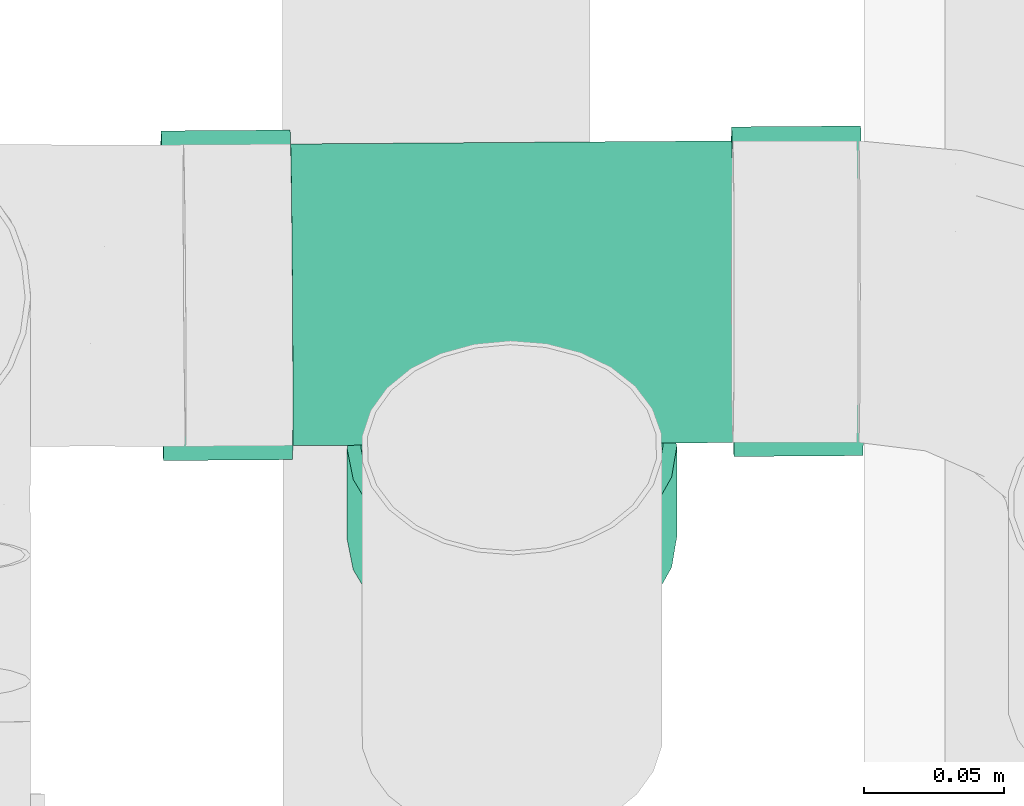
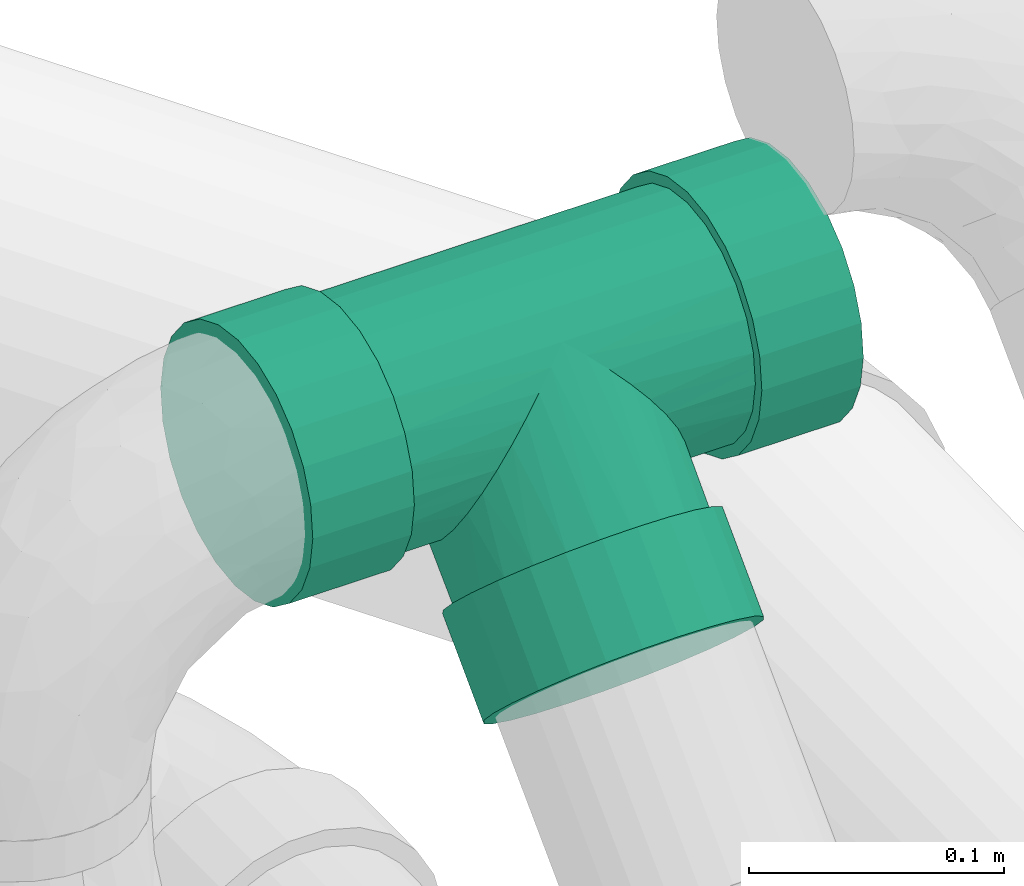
# One storey, part 68 of 78: 1 flow fitting.
"""IFC2X3 building model written with IfcOpenShell, lengths in millimetres."""

import ifcopenshell
import ifcopenshell.guid

model = None  # the IFC model being written
_history = None  # IfcOwnerHistory: only IFC2X3 demands one
_inside = {}  # id of a spatial element -> (the spatial element, [elements in it])
_under = {}  # id of a project, library or spatial element -> (it, [spatial elements below it])
_declared = {}  # id of a project -> (the project, [libraries it declares])
_typed = {}  # id of a type object -> (the type object, [elements of that type])
_made_of = {}  # id of a material, layer set ... -> (it, [elements and type objects made of it])


def new_model(schema):
    """Start an empty IFC model of exactly this schema.

    Asked for "IFC4X3", IfcOpenShell would pick the latest addendum, in which some entities
    have other attributes; the version numbers below select the first issue.
    IFC2X3 requires an IfcOwnerHistory on every rooted entity: one is made here for all.
    """
    global model, _history
    if schema == "IFC4X3":
        model = ifcopenshell.file(schema_version=(4, 3, 0, 0))
    else:
        model = ifcopenshell.file(schema=schema)
    _inside.clear()
    _under.clear()
    _declared.clear()
    _typed.clear()
    _made_of.clear()
    _history = None
    if model.schema == "IFC2X3":
        org = make("IfcOrganization", Name="unknown")
        user = make(
            "IfcPersonAndOrganization",
            ThePerson=make("IfcPerson", FamilyName="unknown"),
            TheOrganization=org,
        )
        app = make(
            "IfcApplication",
            ApplicationDeveloper=org,
            Version="unknown",
            ApplicationFullName="unknown",
            ApplicationIdentifier="unknown",
        )
        _history = make(
            "IfcOwnerHistory",
            OwningUser=user,
            OwningApplication=app,
            ChangeAction="ADDED",
            CreationDate=0,
        )
    return model


def make(cls, **values):
    """One entity of the class cls with the attributes given. An attribute that is None is left unset."""
    return model.create_entity(
        cls, **{name: value for name, value in values.items() if value is not None}
    )


def entity(cls, *values):
    """Any entity or typed value of the class cls, its attributes in the order of the schema. None: left unset."""
    e = model.create_entity(cls)
    for i, value in enumerate(values):
        if value is not None:
            e[i] = value
    return e


def rooted(cls, **values):
    """An entity with a GlobalId (a new one), such as an element, a storey or a relation."""
    return make(cls, GlobalId=ifcopenshell.guid.new(), OwnerHistory=_history, **values)


def si_unit(unit_type, name, prefix=None):
    """IfcSIUnit, for example si_unit("LENGTHUNIT", "METRE", prefix="MILLI")."""
    return make("IfcSIUnit", UnitType=unit_type, Prefix=prefix, Name=name)


def converted_unit(unit_type, name, factor, base, dimensions=None, offset=None):
    """IfcConversionBasedUnit, such as the inch: factor (a typed value) times the base unit."""
    return make(
        "IfcConversionBasedUnit"
        if offset is None
        else "IfcConversionBasedUnitWithOffset",
        ConversionOffset=offset,
        Dimensions=None
        if dimensions is None
        else entity("IfcDimensionalExponents", *dimensions),
        UnitType=unit_type,
        Name=name,
        ConversionFactor=make(
            "IfcMeasureWithUnit", ValueComponent=factor, UnitComponent=base
        ),
    )


def derived_unit(unit_type, elements):
    """IfcDerivedUnit: a product of units, each with its exponent."""
    return make(
        "IfcDerivedUnit",
        Elements=[
            make("IfcDerivedUnitElement", Unit=unit, Exponent=power)
            for unit, power in elements
        ],
        UnitType=unit_type,
    )


def assignment(units):
    """IfcUnitAssignment: the units of a project."""
    return None if units is None else make("IfcUnitAssignment", Units=units)


def point(xyz):
    """IfcCartesianPoint."""
    return None if xyz is None else make("IfcCartesianPoint", Coordinates=xyz)


def direction(xyz):
    """IfcDirection."""
    return None if xyz is None else make("IfcDirection", DirectionRatios=xyz)


def frame(location, z_axis=None, x_axis=None):
    """IfcAxis2Placement3D, a coordinate frame: its origin and axes. An axis left out is left unset."""
    return make(
        "IfcAxis2Placement3D",
        Location=point(location),
        Axis=direction(z_axis),
        RefDirection=direction(x_axis),
    )


def origin_with_axes():
    """The frame at (0, 0, 0) with the z axis (0, 0, 1) and the x axis (1, 0, 0) written out."""
    return frame((0.0, 0.0, 0.0), z_axis=(0.0, 0.0, 1.0), x_axis=(1.0, 0.0, 0.0))


def place(relative_to, where):
    """IfcLocalPlacement: puts the frame where relative to a parent placement (None: the world)."""
    return make(
        "IfcLocalPlacement", PlacementRelTo=relative_to, RelativePlacement=where
    )


def context(
    kind, dimensions, precision=None, world=None, true_north=None, identifier=None
):
    """IfcGeometricRepresentationContext, for example the 3D "Model" context."""
    return make(
        "IfcGeometricRepresentationContext",
        ContextIdentifier=identifier,
        ContextType=kind,
        CoordinateSpaceDimension=dimensions,
        Precision=precision,
        WorldCoordinateSystem=world,
        TrueNorth=true_north,
    )


def subcontext(parent, identifier, kind, view, scale=None):
    """IfcGeometricRepresentationSubContext, for example "Body" below "Model"."""
    return make(
        "IfcGeometricRepresentationSubContext",
        ContextIdentifier=identifier,
        ContextType=kind,
        ParentContext=parent,
        TargetScale=scale,
        TargetView=view,
    )


def project(units=None, contexts=None):
    """IfcProject with its units and contexts."""
    return rooted(
        "IfcProject",
        Name="project",
        RepresentationContexts=contexts,
        UnitsInContext=assignment(units),
    )


def spatial(cls, under=None, at=None, **own):
    """A site, building, storey or space (cls), placed at a placement, below another one or the project."""
    s = rooted(cls, ObjectPlacement=at, **own)
    if under is not None:
        _under.setdefault(under.id(), (under, []))[1].append(s)
    return s


def faces_of(points, faces, orient=None, outer=None):
    """IfcFace entities. A face is a list of loops; a loop is a list of indices into points, from 0.

    orient and outer hold one flag for each loop. By default every Orientation is true, the
    first loop of a face is its IfcFaceOuterBound and the others are IfcFaceBound.
    """
    made = []
    for i, loops in enumerate(faces):
        bounds = []
        for j, loop in enumerate(loops):
            is_outer = j == 0 if outer is None else outer[i][j]
            bounds.append(
                make(
                    "IfcFaceOuterBound" if is_outer else "IfcFaceBound",
                    Bound=make("IfcPolyLoop", Polygon=[points[k] for k in loop]),
                    Orientation=True if orient is None else orient[i][j],
                )
            )
        made.append(make("IfcFace", Bounds=bounds))
    return made


def open_shell(faces, orient=None, outer=None):
    """The faces of one IfcOpenShell. surface_model builds it on its shared points."""
    return ("IfcOpenShell", faces, orient, outer)


def surface_model(cls, points, shells):
    """IfcFaceBasedSurfaceModel or IfcShellBasedSurfaceModel (cls): surfaces that need not close."""
    shared = [point(p) for p in points]
    made = [make(c, CfsFaces=faces_of(shared, fs, o, b)) for c, fs, o, b in shells]
    if cls == "IfcFaceBasedSurfaceModel":
        return make(cls, FbsmFaces=made)
    return make(cls, SbsmBoundary=made)


def shape(context_of_items, identifier, shape_type, items):
    """IfcShapeRepresentation: the items that make up one representation, for example the "Body"."""
    return make(
        "IfcShapeRepresentation",
        ContextOfItems=context_of_items,
        RepresentationIdentifier=identifier,
        RepresentationType=shape_type,
        Items=items,
    )


def source(mapping_origin, context_of_items, identifier, shape_type, items):
    """IfcRepresentationMap: a shape defined once, which mapped items show again and again."""
    return make(
        "IfcRepresentationMap",
        MappingOrigin=mapping_origin,
        MappedRepresentation=shape(context_of_items, identifier, shape_type, items),
    )


def transform(
    local_origin,
    x_axis=None,
    y_axis=None,
    z_axis=None,
    scale=None,
    scale2=None,
    scale3=None,
    uniform=True,
):
    """IfcCartesianTransformationOperator3D, or its non-uniform kind. x_axis, y_axis, z_axis: its Axis1, 2, 3."""
    if uniform:
        return make(
            "IfcCartesianTransformationOperator3D",
            Axis1=direction(x_axis),
            Axis2=direction(y_axis),
            LocalOrigin=point(local_origin),
            Scale=scale,
            Axis3=direction(z_axis),
        )
    return make(
        "IfcCartesianTransformationOperator3DnonUniform",
        Axis1=direction(x_axis),
        Axis2=direction(y_axis),
        LocalOrigin=point(local_origin),
        Scale=scale,
        Axis3=direction(z_axis),
        Scale2=scale2,
        Scale3=scale3,
    )


def mapped(mapping_source, mapping_target):
    """IfcMappedItem: shows the shape of a source again, moved by a transform."""
    return make(
        "IfcMappedItem", MappingSource=mapping_source, MappingTarget=mapping_target
    )


def made_of(thing, what):
    """Note that an element or type object is made of a material, layer set ...; save() writes the relation."""
    if what is not None:
        _made_of.setdefault(what.id(), (what, []))[1].append(thing)
    return thing


def type_object(cls, material=None, **own):
    """A type object (cls), such as IfcWallType, which elements share."""
    return made_of(rooted(cls, **own), material)


def element(
    cls,
    number,
    at=None,
    inside=None,
    cuts=None,
    type_object=None,
    material=None,
    context=None,
    identifier="Body",
    shape_type=None,
    held_by="IfcProductDefinitionShape",
    body=None,
    shapes=None,
    **own,
):
    """One element of the class cls, such as IfcWall. Its Tag is "e" and its number.

    at: its placement. inside: the storey or other place that contains it. cuts: it is an
    opening in that element (IfcRelVoidsElement). A single representation is given by context,
    identifier, shape_type and body (its items); several are given by shapes. held_by: the class
    of the entity that holds the representations. save() writes the other relations.
    """
    e = rooted(cls, Tag="e%d" % number, ObjectPlacement=at, **own)
    if body is not None:
        shapes = [shape(context, identifier, shape_type, body)]
    if shapes is not None:
        e.Representation = make(held_by, Representations=shapes)
    if inside is not None:
        _inside.setdefault(inside.id(), (inside, []))[1].append(e)
    if cuts is not None:
        rooted(
            "IfcRelVoidsElement", RelatingBuildingElement=cuts, RelatedOpeningElement=e
        )
    if type_object is not None:
        _typed.setdefault(type_object.id(), (type_object, []))[1].append(e)
    return made_of(e, material)


def aggregate(whole, parts):
    """IfcRelAggregates: a whole, such as a stair, and the parts it consists of."""
    return rooted("IfcRelAggregates", RelatingObject=whole, RelatedObjects=parts)


def save(model, path):
    """Write the relations noted so far, then the file.

    IfcRelAggregates (storeys below a building ...), IfcRelContainedInSpatialStructure (elements
    in a storey), IfcRelDefinesByType, IfcRelAssociatesMaterial and IfcRelDeclares: one each for
    every whole, place, type object, material and project.
    """
    for whole, parts in _under.values():
        aggregate(whole, parts)
    for where, things in _inside.values():
        rooted(
            "IfcRelContainedInSpatialStructure",
            RelatedElements=things,
            RelatingStructure=where,
        )
    for kind, things in _typed.values():
        rooted("IfcRelDefinesByType", RelatedObjects=things, RelatingType=kind)
    for what, things in _made_of.values():
        rooted("IfcRelAssociatesMaterial", RelatedObjects=things, RelatingMaterial=what)
    for by, libraries in _declared.values():
        rooted("IfcRelDeclares", RelatingContext=by, RelatedDefinitions=libraries)
    model.write(path)


model = new_model("IFC2X3")

# Units and contexts
model_context = context("Model", 3, precision=0.01, world=frame((0.0, 4.29681676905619e-09, 0.0)), true_north=direction((4.01073788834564e-13, 1.0)))
plan_context = context("Plan", 3, precision=0.01, world=frame((0.0, 4.29681676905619e-09, 0.0)), true_north=direction((4.01073788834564e-13, 1.0)))
body_context = subcontext(model_context, "Body", "Model", "MODEL_VIEW")
ifc_project = project(units=[converted_unit("PLANEANGLEUNIT", "DEGREE", entity("IfcPositiveLengthMeasure", 0.0174532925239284), si_unit("PLANEANGLEUNIT", "RADIAN"), dimensions=[0, 0, 0, 0, 0, 0, 0]), si_unit("AREAUNIT", "SQUARE_METRE"), si_unit("LENGTHUNIT", "METRE", prefix="MILLI"), si_unit("MASSUNIT", "GRAM", prefix="KILO"), si_unit("POWERUNIT", "WATT"), si_unit("PRESSUREUNIT", "PASCAL"), si_unit("FORCEUNIT", "NEWTON", prefix="KILO"), si_unit("ELECTRICVOLTAGEUNIT", "VOLT"), si_unit("ELECTRICCURRENTUNIT", "AMPERE"), si_unit("THERMODYNAMICTEMPERATUREUNIT", "DEGREE_CELSIUS"), si_unit("TIMEUNIT", "SECOND"), si_unit("VOLUMEUNIT", "CUBIC_METRE"), derived_unit("LINEARVELOCITYUNIT", [(si_unit("LENGTHUNIT", "METRE"), 1), (si_unit("TIMEUNIT", "SECOND"), -1)]), derived_unit("VOLUMETRICFLOWRATEUNIT", [(si_unit("VOLUMEUNIT", "CUBIC_METRE"), 1), (si_unit("TIMEUNIT", "SECOND"), -1)]), derived_unit("THERMALTRANSMITTANCEUNIT", [(si_unit("POWERUNIT", "WATT"), 1), (si_unit("THERMODYNAMICTEMPERATUREUNIT", "KELVIN"), -1), (si_unit("AREAUNIT", "SQUARE_METRE"), -1)]), derived_unit("SOUNDPRESSUREUNIT", [(si_unit("PRESSUREUNIT", "PASCAL"), 1)])], contexts=[model_context, plan_context])

# Site, building, storey
site_placement = place(None, frame((0.0, -4.29681676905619e-09, 0.0), z_axis=(0.0, 0.0, 1.0), x_axis=(1.0, 0.0, 0.0)))
site = spatial("IfcSite", under=ifc_project, at=site_placement, Name="ENGM", CompositionType="ELEMENT")
building_placement = place(site_placement, frame((0.0, 4.29681676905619e-09, 0.0), z_axis=(0.0, 0.0, 1.0), x_axis=(1.0, 0.0, 0.0)))
building = spatial("IfcBuilding", under=site, at=building_placement, Name="TH", CompositionType="ELEMENT")
storey_placement = place(building_placement, frame((0.0, 0.0, 205200.0), z_axis=(0.0, 0.0, 1.0), x_axis=(1.0, 0.0, 0.0)))
storey = spatial("IfcBuildingStorey", under=building, at=storey_placement, Name="Nivå D + 1,2 m", CompositionType="ELEMENT", Elevation=205200.0)

# Flow fitting
pipe_fitting_type = type_object("IfcPipeFittingType", Name="magi_sewer_tee_wye_NOR", PredefinedType="JUNCTION")
shared_shape = source(origin_with_axes(), body_context, "Body", "SurfaceModel", [
    surface_model("IfcShellBasedSurfaceModel", [(125.2, 29.5, -51.0955), (125.2, 0.0, -59.0), (125.2, 15.27032, -56.98962), (125.2, 56.98962, -15.27032), (125.2, 41.7193, -41.7193), (125.2, 51.0955, -29.5), (125.2, 59.0, 0.0), (125.2, -15.27032, -56.98962), (125.2, -56.98962, -15.27032), (125.2, -29.5, -51.0955), (125.2, -41.7193, -41.7193), (125.2, -51.0955, -29.5), (125.2, 56.98962, 15.27032), (125.2, 51.0955, 29.5), (125.2, 41.7193, 41.7193), (125.2, 29.5, 51.0955), (125.2, 15.27032, 56.98962), (125.2, 0.0, 59.0), (125.2, -41.7193, 41.7193), (125.2, -56.98962, 15.27032), (125.2, -59.0, 0.0), (125.2, -51.0955, 29.5), (125.2, -15.27032, 56.98962), (125.2, -29.5, 51.0955), (79.0, 0.0, 59.0), (79.0, 15.27032, 56.98962), (79.0, 29.5, 51.0955), (79.0, 56.98962, 15.27032), (79.0, 41.7193, 41.7193), (79.0, 51.0955, 29.5), (79.0, -15.27032, 56.98962), (79.0, -41.7193, 41.7193), (79.0, -29.5, 51.0955), (79.0, -56.98962, -15.27032), (79.0, -56.98962, 15.27032), (79.0, -59.0, 0.0), (79.0, -51.0955, 29.5), (79.0, 29.5, -51.0955), (79.0, 59.0, 0.0), (79.0, 56.98962, -15.27032), (79.0, 41.7193, -41.7193), (79.0, 51.0955, -29.5), (79.0, 15.27032, -56.98962), (79.0, -41.7193, -41.7193), (79.0, -51.0955, -29.5), (79.0, -29.5, -51.0955), (79.0, -15.27032, -56.98962), (79.0, 0.0, -59.0), (15.26242, -79.00692, -56.98962), (-0.0079, -79.0054, -59.0), (41.7114, -79.00957, -41.7193), (29.4921, -79.00835, -51.0955), (56.98172, -79.0111, -15.27032), (51.0876, -79.01051, -29.5), (-41.7272, -79.00123, -41.7193), (-56.99752, -78.9997, -15.27032), (-29.5079, -79.00245, -51.0955), (-15.27822, -79.00387, -56.98962), (-51.1034, -79.00029, -29.5), (-59.0079, -78.9995, 0.0), (-56.99752, -78.9997, 15.27032), (56.98172, -79.0111, 15.27032), (-41.7272, -79.00123, 41.7193), (51.0876, -79.01051, 29.5), (15.26242, -79.00692, 56.98962), (29.4921, -79.00835, 51.0955), (41.7114, -79.00957, 41.7193), (-0.0079, -79.0054, 59.0), (-51.1034, -79.00029, 29.5), (-15.27822, -79.00387, 56.98962), (-29.5079, -79.00245, 51.0955), (58.9921, -79.0113, 0.0), (41.70678, -125.20957, -41.7193), (-0.01252, -125.2054, -59.0), (15.2578, -125.20693, -56.98962), (29.48748, -125.20835, -51.0955), (51.08298, -125.21051, -29.5), (56.9771, -125.2111, -15.27032), (-15.28284, -125.20388, -56.98962), (-41.73182, -125.20122, -41.7193), (-29.51252, -125.20245, -51.0955), (-41.73182, -125.20122, 41.7193), (-57.00214, -125.1997, -15.27032), (-51.10802, -125.20029, -29.5), (-57.00214, -125.1997, 15.27032), (-59.01252, -125.1995, 0.0), (56.9771, -125.2111, 15.27032), (15.2578, -125.20693, 56.98962), (51.08298, -125.21051, 29.5), (29.48748, -125.20835, 51.0955), (41.70678, -125.20957, 41.7193), (-51.10802, -125.20029, 29.5), (-29.51252, -125.20245, 51.0955), (-0.01252, -125.2054, 59.0), (-15.28284, -125.20388, 56.98962), (58.98748, -125.2113, 0.0), (-125.2079, -29.5, -51.0955), (-125.2079, 0.0, -59.0), (-125.2079, -15.27032, -56.98962), (-125.2079, -56.98962, -15.27032), (-125.2079, -41.7193, -41.7193), (-125.2079, -51.0955, -29.5), (-125.2079, -59.0, 0.0), (-125.2079, 15.27032, -56.98962), (-125.2079, 56.98962, -15.27032), (-125.2079, 29.5, -51.0955), (-125.2079, 41.7193, -41.7193), (-125.2079, 51.0955, -29.5), (-125.2079, -56.98962, 15.27032), (-125.2079, -51.0955, 29.5), (-125.2079, -41.7193, 41.7193), (-125.2079, -29.5, 51.0955), (-125.2079, -15.27032, 56.98962), (-125.2079, 0.0, 59.0), (-125.2079, 41.7193, 41.7193), (-125.2079, 56.98962, 15.27032), (-125.2079, 59.0, 0.0), (-125.2079, 51.0955, 29.5), (-125.2079, 15.27032, 56.98962), (-125.2079, 29.5, 51.0955), (-79.0079, 0.0, 59.0), (-79.0079, -15.27032, 56.98962), (-79.0079, -29.5, 51.0955), (-79.0079, -56.98962, 15.27032), (-79.0079, -41.7193, 41.7193), (-79.0079, -51.0955, 29.5), (-79.0079, 15.27032, 56.98962), (-79.0079, 41.7193, 41.7193), (-79.0079, 29.5, 51.0955), (-79.0079, 56.98962, -15.27032), (-79.0079, 56.98962, 15.27032), (-79.0079, 59.0, 0.0), (-79.0079, 51.0955, 29.5), (-79.0079, -29.5, -51.0955), (-79.0079, -59.0, 0.0), (-79.0079, -56.98962, -15.27032), (-79.0079, -41.7193, -41.7193), (-79.0079, -51.0955, -29.5), (-79.0079, -15.27032, -56.98962), (-79.0079, 41.7193, -41.7193), (-79.0079, 51.0955, -29.5), (-79.0079, 29.5, -51.0955), (-79.0079, 15.27032, -56.98962), (-79.0079, 0.0, -59.0), (79.0, 13.97623, -52.15999), (79.0, 27.0, -46.76537), (79.0, 38.18377, -38.18377), (79.0, 52.15999, 13.97623), (79.0, 46.76537, -27.0), (79.0, 52.15999, -13.97623), (79.0, -52.15999, -13.97623), (79.0, -52.15999, 13.97623), (79.0, -13.97623, -52.15999), (79.0, -38.18377, -38.18377), (79.0, -27.0, -46.76537), (79.0, 0.0, -54.0), (79.0, -46.76537, -27.0), (79.0, 54.0, 0.0), (79.0, 46.76537, 27.0), (79.0, 38.18377, 38.18377), (79.0, 27.0, 46.76537), (79.0, -38.18377, 38.18377), (79.0, 13.97623, 52.15999), (79.0, -13.97623, 52.15999), (79.0, 0.0, 54.0), (79.0, -46.76537, 27.0), (79.0, -54.0, 0.0), (79.0, -27.0, 46.76537), (-79.0079, 13.97623, 52.15999), (-79.0079, -38.18377, 38.18377), (-79.0079, 0.0, 54.0), (-79.0079, 38.18377, 38.18377), (-79.0079, 27.0, 46.76537), (-79.0079, 46.76537, 27.0), (-79.0079, 52.15999, 13.97623), (-79.0079, -13.97623, 52.15999), (-79.0079, -27.0, 46.76537), (-79.0079, -52.15999, 13.97623), (-79.0079, -46.76537, 27.0), (-79.0079, 13.97623, -52.15999), (-79.0079, -52.15999, -13.97623), (-79.0079, -54.0, 0.0), (-79.0079, 52.15999, -13.97623), (-79.0079, 46.76537, -27.0), (-79.0079, 38.18377, -38.18377), (-79.0079, 27.0, -46.76537), (-79.0079, -13.97623, -52.15999), (-79.0079, -38.18377, -38.18377), (-79.0079, -46.76537, -27.0), (-79.0079, -27.0, -46.76537), (-79.0079, 0.0, -54.0), (-79.0079, 54.0, 0.0), (-79.0079, -52.61999, -10.48217), (-52.80769, -52.80241, -11.30952), (-79.0079, -53.08, -6.98811), (-53.40655, -53.40121, -5.65476), (-51.1267, -51.12159, -16.51306), (-79.0079, -49.46268, -20.48811), (-49.44571, -49.44077, -21.7166), (-79.0079, -42.47457, -32.59188), (-38.25712, -38.25329, -38.11412), (-31.31243, -31.30929, -43.99691), (-79.0079, -32.59188, -42.47457), (-44.42825, -44.42381, -30.70057), (-46.93698, -46.93229, -26.20858), (-79.0079, -50.81134, -17.23217), (49.43627, -49.44121, -21.71558), (79.0, -49.46268, -20.48811), (51.11677, -51.12188, -16.51222), (53.39594, -53.40128, -5.65443), (79.0, -53.08, -6.98811), (52.79727, -52.80255, -11.30887), (53.9946, -54.0, 0.0), (79.0, -50.81134, -17.23217), (79.0, -52.61999, -10.48217), (31.30706, -31.31019, -43.99627), (79.0, -32.59188, -42.47457), (38.25035, -38.25418, -38.11323), (79.0, -42.47457, -32.59188), (44.4201, -44.42454, -30.69952), (23.8505, -23.85289, -48.44626), (46.92819, -46.93288, -26.20755), (-54.0054, -54.0, 0.0), (-23.8545, -23.85211, -48.44664), (-8.07806, -8.07725, -53.39249), (-16.06496, -16.06335, -51.55549), (0.0, 0.0, -54.0), (8.07674, -8.07755, -53.39244), (16.06231, -16.06392, -51.55532), (79.0, -53.08, 6.98811), (52.79727, -52.80255, 11.30887), (53.39594, -53.40128, 5.65443), (0.0, 0.0, 54.0), (-8.07806, -8.07725, 53.39249), (51.11677, -51.12188, 16.51222), (79.0, -49.46268, 20.48811), (49.43627, -49.44121, 21.71558), (-16.06496, -16.06335, 51.55549), (-23.8545, -23.85211, 48.44664), (38.25035, -38.25418, 38.11323), (79.0, -32.59188, 42.47457), (31.30706, -31.31019, 43.99627), (-51.1267, -51.12159, 16.51306), (-79.0079, -49.46268, 20.48811), (-79.0079, -50.81134, 17.23217), (-53.40655, -53.40121, 5.65476), (-79.0079, -53.08, 6.98811), (44.4201, -44.42454, 30.69952), (79.0, -42.47457, 32.59188), (8.07674, -8.07755, 53.39244), (16.06231, -16.06392, 51.55532), (23.8505, -23.85289, 48.44626), (-31.31243, -31.30929, 43.99691), (-79.0079, -32.59188, 42.47457), (-38.25712, -38.25329, 38.11412), (-52.80769, -52.80241, 11.30952), (-79.0079, -52.61999, 10.48217), (-79.0079, -42.47457, 32.59188), (-49.44571, -49.44077, 21.7166), (-46.93698, -46.93229, 26.20858), (-44.42825, -44.42381, 30.70057), (79.0, -50.81134, 17.23217), (46.92819, -46.93288, 26.20755), (79.0, -52.61999, 10.48217), (38.17587, -79.00922, -38.18377), (-0.0079, -79.0054, -54.0), (13.96833, -79.0068, -52.15999), (26.9921, -79.0081, -46.76537), (46.75747, -79.01008, -27.0), (52.15209, -79.01061, -13.97623), (-38.19166, -79.00158, -38.18377), (46.75747, -79.01008, 27.0), (-13.98413, -79.004, -52.15999), (-27.0079, -79.0027, -46.76537), (-52.1679, -79.00018, -13.97623), (-46.77327, -79.00072, -27.0), (-54.0079, -79.0, 0.0), (-52.1679, -79.00018, 13.97623), (53.9921, -79.0108, 0.0), (52.15209, -79.01061, 13.97623), (-0.0079, -79.0054, 54.0), (26.9921, -79.0081, 46.76537), (13.96833, -79.0068, 52.15999), (38.17587, -79.00922, 38.18377), (-46.77327, -79.00072, 27.0), (-38.19166, -79.00158, 38.18377), (-27.0079, -79.0027, 46.76537), (-13.98413, -79.004, 52.15999)], [open_shell([[[0, 1, 2]], [[3, 0, 4]], [[1, 0, 3]], [[3, 4, 5]], [[1, 3, 6]], [[7, 8, 9]], [[7, 1, 6]], [[10, 8, 11]], [[8, 10, 9]], [[6, 8, 7]], [[6, 12, 8]], [[12, 13, 14]], [[12, 14, 15]], [[15, 16, 17]], [[15, 17, 12]], [[17, 18, 8]], [[8, 19, 20]], [[8, 21, 19]], [[18, 22, 23]], [[8, 18, 21]], [[17, 22, 18]], [[8, 12, 17]], [[24, 25, 26]], [[24, 26, 27]], [[28, 29, 27]], [[28, 27, 26]], [[24, 27, 30]], [[30, 31, 32]], [[31, 30, 33]], [[34, 33, 35]], [[36, 33, 34]], [[36, 31, 33]], [[33, 30, 27]], [[37, 38, 39]], [[40, 39, 41]], [[38, 37, 33]], [[37, 39, 40]], [[33, 37, 42]], [[33, 43, 44]], [[43, 33, 45]], [[33, 46, 45]], [[46, 33, 47]], [[33, 42, 47]], [[38, 33, 27]], [[33, 8, 35]], [[44, 11, 33]], [[9, 43, 45]], [[44, 43, 10]], [[7, 45, 46]], [[33, 11, 8]], [[8, 20, 35]], [[7, 9, 45]], [[10, 43, 9]], [[10, 11, 44]], [[1, 7, 46]], [[46, 47, 1]], [[2, 42, 37]], [[40, 0, 37]], [[5, 41, 39]], [[40, 41, 4]], [[3, 39, 38]], [[42, 2, 47]], [[37, 0, 2]], [[47, 2, 1]], [[40, 4, 0]], [[41, 5, 4]], [[3, 5, 39]], [[38, 6, 3]], [[27, 12, 38]], [[29, 13, 27]], [[15, 28, 26]], [[29, 28, 14]], [[16, 26, 25]], [[27, 13, 12]], [[12, 6, 38]], [[15, 26, 16]], [[14, 28, 15]], [[14, 13, 29]], [[16, 24, 17]], [[16, 25, 24]], [[22, 30, 32]], [[31, 23, 32]], [[21, 36, 34]], [[31, 36, 18]], [[19, 34, 35]], [[30, 22, 24]], [[32, 23, 22]], [[24, 22, 17]], [[31, 18, 23]], [[36, 21, 18]], [[19, 21, 34]], [[35, 20, 19]], [[48, 49, 50]], [[51, 48, 50]], [[52, 53, 50]], [[54, 50, 49]], [[52, 50, 55]], [[56, 54, 57]], [[54, 49, 57]], [[58, 55, 54]], [[54, 55, 50]], [[59, 60, 55]], [[61, 52, 55]], [[62, 61, 55]], [[63, 61, 64]], [[63, 64, 65]], [[66, 63, 65]], [[64, 61, 67]], [[68, 62, 60]], [[60, 62, 55]], [[69, 67, 70]], [[62, 70, 67]], [[62, 67, 61]], [[71, 52, 61]], [[72, 73, 74]], [[72, 74, 75]], [[72, 76, 77]], [[72, 77, 73]], [[73, 77, 78]], [[78, 79, 80]], [[79, 78, 81]], [[79, 82, 83]], [[79, 81, 82]], [[82, 84, 85]], [[77, 81, 78]], [[86, 87, 77]], [[87, 86, 88]], [[89, 87, 88]], [[89, 88, 90]], [[77, 87, 81]], [[84, 81, 91]], [[82, 81, 84]], [[92, 93, 94]], [[93, 92, 81]], [[87, 93, 81]], [[86, 77, 95]], [[84, 59, 85]], [[91, 60, 84]], [[62, 81, 92]], [[91, 81, 68]], [[70, 92, 94]], [[91, 68, 60]], [[60, 59, 84]], [[69, 93, 67]], [[69, 70, 94]], [[62, 92, 70]], [[62, 68, 81]], [[93, 69, 94]], [[65, 87, 89]], [[90, 66, 89]], [[61, 88, 86]], [[90, 88, 63]], [[71, 86, 95]], [[87, 64, 67]], [[87, 65, 64]], [[89, 66, 65]], [[90, 63, 66]], [[61, 63, 88]], [[86, 71, 61]], [[87, 67, 93]], [[77, 71, 95]], [[76, 52, 77]], [[50, 72, 75]], [[76, 72, 53]], [[51, 75, 74]], [[76, 53, 52]], [[52, 71, 77]], [[49, 74, 73]], [[48, 51, 74]], [[50, 75, 51]], [[50, 53, 72]], [[74, 49, 48]], [[56, 78, 80]], [[79, 54, 80]], [[55, 83, 82]], [[79, 83, 58]], [[59, 82, 85]], [[78, 57, 49]], [[78, 56, 57]], [[80, 54, 56]], [[79, 58, 54]], [[55, 58, 83]], [[82, 59, 55]], [[78, 49, 73]], [[96, 97, 98]], [[99, 96, 100]], [[97, 96, 99]], [[99, 100, 101]], [[97, 99, 102]], [[103, 104, 105]], [[103, 97, 102]], [[106, 104, 107]], [[104, 106, 105]], [[102, 104, 103]], [[102, 108, 104]], [[108, 109, 110]], [[108, 110, 111]], [[111, 112, 113]], [[111, 113, 108]], [[113, 114, 104]], [[104, 115, 116]], [[104, 117, 115]], [[114, 118, 119]], [[104, 114, 117]], [[113, 118, 114]], [[104, 108, 113]], [[120, 121, 122]], [[120, 122, 123]], [[124, 125, 123]], [[124, 123, 122]], [[120, 123, 126]], [[126, 127, 128]], [[127, 126, 129]], [[130, 129, 131]], [[132, 129, 130]], [[132, 127, 129]], [[129, 126, 123]], [[133, 134, 135]], [[136, 135, 137]], [[134, 133, 129]], [[133, 135, 136]], [[129, 133, 138]], [[129, 139, 140]], [[139, 129, 141]], [[129, 142, 141]], [[142, 129, 143]], [[129, 138, 143]], [[134, 129, 123]], [[129, 104, 131]], [[140, 107, 129]], [[105, 139, 141]], [[140, 139, 106]], [[103, 141, 142]], [[129, 107, 104]], [[104, 116, 131]], [[103, 105, 141]], [[106, 139, 105]], [[106, 107, 140]], [[97, 103, 142]], [[142, 143, 97]], [[98, 138, 133]], [[136, 96, 133]], [[101, 137, 135]], [[136, 137, 100]], [[99, 135, 134]], [[138, 98, 143]], [[133, 96, 98]], [[143, 98, 97]], [[136, 100, 96]], [[137, 101, 100]], [[99, 101, 135]], [[134, 102, 99]], [[123, 108, 134]], [[125, 109, 123]], [[111, 124, 122]], [[125, 124, 110]], [[112, 122, 121]], [[123, 109, 108]], [[108, 102, 134]], [[111, 122, 112]], [[110, 124, 111]], [[110, 109, 125]], [[112, 120, 113]], [[112, 121, 120]], [[118, 126, 128]], [[127, 119, 128]], [[117, 132, 130]], [[127, 132, 114]], [[115, 130, 131]], [[126, 118, 120]], [[128, 119, 118]], [[120, 118, 113]], [[127, 114, 119]], [[132, 117, 114]], [[115, 117, 130]], [[131, 116, 115]], [[144, 145, 146]], [[147, 144, 146]], [[147, 148, 149]], [[147, 146, 148]], [[150, 144, 151]], [[152, 153, 154]], [[152, 155, 144]], [[153, 150, 156]], [[150, 153, 152]], [[144, 150, 152]], [[157, 147, 149]], [[147, 158, 159]], [[147, 159, 160]], [[161, 160, 162]], [[160, 161, 147]], [[163, 162, 164]], [[151, 161, 165]], [[166, 150, 151]], [[161, 163, 167]], [[151, 144, 161]], [[163, 161, 162]], [[144, 147, 161]], [[168, 169, 170]], [[171, 168, 172]], [[171, 173, 174]], [[168, 171, 169]], [[174, 169, 171]], [[175, 169, 176]], [[175, 170, 169]], [[169, 177, 178]], [[169, 179, 177]], [[177, 180, 181]], [[179, 169, 174]], [[182, 183, 174]], [[184, 174, 183]], [[184, 185, 179]], [[179, 174, 184]], [[179, 186, 177]], [[180, 187, 188]], [[187, 180, 186]], [[187, 186, 189]], [[177, 186, 180]], [[179, 190, 186]], [[182, 174, 191]], [[192, 180, 193]], [[194, 193, 195]], [[181, 194, 195]], [[196, 193, 180]], [[193, 194, 192]], [[197, 188, 198]], [[199, 187, 200]], [[201, 202, 189]], [[196, 197, 198]], [[203, 199, 200]], [[200, 187, 202]], [[200, 202, 201]], [[188, 203, 204]], [[188, 204, 198]], [[197, 196, 205]], [[206, 207, 208]], [[166, 209, 210]], [[210, 209, 211]], [[209, 166, 212]], [[213, 150, 208]], [[196, 180, 205]], [[211, 150, 214]], [[203, 188, 199]], [[215, 216, 217]], [[217, 153, 218]], [[219, 218, 156]], [[217, 216, 153]], [[154, 215, 220]], [[219, 156, 221]], [[181, 195, 222]], [[201, 189, 223]], [[208, 207, 213]], [[186, 190, 224]], [[211, 214, 210]], [[225, 223, 186]], [[224, 225, 186]], [[217, 218, 219]], [[224, 190, 226]], [[186, 223, 189]], [[146, 184, 183]], [[148, 183, 182]], [[144, 179, 185]], [[145, 185, 184]], [[179, 226, 190]], [[149, 182, 191]], [[206, 156, 207]], [[150, 211, 208]], [[227, 226, 155]], [[228, 227, 152]], [[228, 152, 220]], [[152, 227, 155]], [[220, 152, 154]], [[226, 144, 155]], [[215, 154, 216]], [[179, 144, 226]], [[145, 144, 185]], [[145, 184, 146]], [[148, 146, 183]], [[149, 148, 182]], [[191, 157, 149]], [[156, 206, 221]], [[229, 230, 231]], [[171, 158, 173]], [[147, 191, 174]], [[159, 171, 172]], [[173, 147, 174]], [[170, 232, 168]], [[233, 170, 175]], [[234, 235, 236]], [[237, 233, 175]], [[238, 237, 175]], [[239, 240, 241]], [[175, 176, 238]], [[172, 168, 160]], [[170, 233, 232]], [[242, 243, 244]], [[147, 173, 158]], [[181, 245, 246]], [[160, 159, 172]], [[158, 171, 159]], [[157, 191, 147]], [[166, 231, 212]], [[247, 165, 248]], [[249, 250, 163]], [[232, 249, 164]], [[232, 164, 162]], [[164, 249, 163]], [[163, 250, 251]], [[162, 160, 168]], [[232, 162, 168]], [[252, 176, 253]], [[169, 254, 253]], [[255, 256, 246]], [[252, 253, 254]], [[254, 169, 257]], [[178, 258, 259]], [[257, 178, 260]], [[254, 257, 260]], [[244, 177, 242]], [[181, 222, 245]], [[255, 177, 256]], [[258, 243, 242]], [[255, 246, 245]], [[235, 234, 261]], [[178, 259, 260]], [[165, 247, 262]], [[177, 255, 242]], [[239, 161, 240]], [[251, 241, 167]], [[241, 240, 167]], [[239, 247, 248]], [[239, 248, 161]], [[258, 178, 243]], [[251, 167, 163]], [[234, 151, 261]], [[230, 229, 263]], [[166, 229, 231]], [[234, 230, 151]], [[236, 235, 165]], [[151, 230, 263]], [[236, 165, 262]], [[252, 238, 176]], [[264, 265, 266]], [[264, 266, 267]], [[264, 268, 269]], [[265, 264, 270]], [[271, 270, 264]], [[272, 270, 273]], [[272, 265, 270]], [[270, 274, 275]], [[276, 274, 277]], [[274, 270, 277]], [[278, 264, 269]], [[278, 279, 271]], [[270, 271, 280]], [[281, 282, 271]], [[281, 271, 283]], [[280, 271, 282]], [[270, 284, 277]], [[285, 284, 270]], [[286, 280, 287]], [[280, 286, 285]], [[280, 285, 270]], [[278, 271, 264]], [[276, 277, 255]], [[255, 222, 276]], [[255, 277, 258]], [[285, 286, 252]], [[260, 284, 285]], [[258, 277, 284]], [[238, 286, 287]], [[260, 258, 284]], [[252, 254, 285]], [[260, 285, 254]], [[237, 238, 287]], [[280, 232, 233]], [[237, 287, 233]], [[252, 286, 238]], [[233, 287, 280]], [[281, 251, 282]], [[282, 249, 280]], [[241, 281, 283]], [[230, 279, 278]], [[283, 271, 247]], [[279, 236, 271]], [[278, 212, 230]], [[241, 251, 281]], [[250, 249, 282]], [[251, 250, 282]], [[230, 236, 279]], [[247, 239, 283]], [[236, 247, 271]], [[241, 283, 239]], [[280, 249, 232]], [[278, 269, 211]], [[211, 212, 278]], [[211, 269, 206]], [[219, 268, 264]], [[264, 267, 215]], [[206, 269, 268]], [[220, 267, 266]], [[219, 206, 268]], [[215, 217, 264]], [[219, 264, 217]], [[228, 220, 266]], [[265, 226, 227]], [[228, 266, 227]], [[215, 267, 220]], [[227, 266, 265]], [[273, 223, 272]], [[272, 224, 265]], [[201, 273, 270]], [[193, 274, 276]], [[270, 275, 203]], [[274, 198, 275]], [[276, 222, 193]], [[201, 223, 273]], [[225, 224, 272]], [[223, 225, 272]], [[193, 198, 274]], [[203, 200, 270]], [[198, 203, 275]], [[201, 270, 200]], [[265, 224, 226]]])]),
])
flow_fitting_placement = place(storey_placement, frame((903692.89029, 479929.84976, 4441.16821999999), z_axis=(-0.00999900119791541, 0.714106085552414, -0.699966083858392), x_axis=(-0.999950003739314, -0.00707071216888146, 0.0070707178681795)))
element("IfcFlowFitting", 1, at=flow_fitting_placement, inside=storey, type_object=pipe_fitting_type, Name="magi_sewer_tee_wye_NOR", context=body_context, shape_type="MappedRepresentation", body=[
    mapped(shared_shape, transform((0.0, 0.0, 0.0), scale=1.0)),
])

save(model, "model.ifc")
